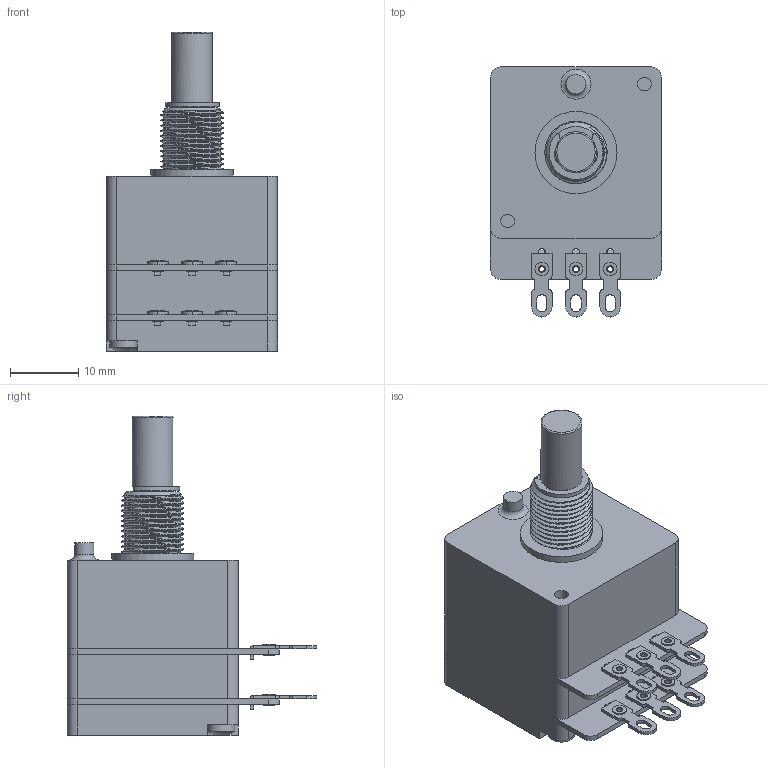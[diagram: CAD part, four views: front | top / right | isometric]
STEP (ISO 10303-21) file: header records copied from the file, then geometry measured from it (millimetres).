
FILE_DESCRIPTION(('FreeCAD Model'),'2;1');
FILE_NAME('Open CASCADE Shape Model','2023-03-22T13:42:44',(''),(''), 'Open CASCADE STEP processor 7.6','FreeCAD','Unknown');
FILE_SCHEMA(('AUTOMOTIVE_DESIGN { 1 0 10303 214 1 1 1 1 }'));
Length unit declared in the file: millimetre
Products named in the file (1): Fusion014013
Bounding box: 25 x 36.5 x 46.67 mm (x, y, z)
Volume: 17085.6 mm3; surface area: 6035.5 mm2
Topology: 1 solids, 15 shells, 508 faces, 1327 edges, 831 vertices
Faces by surface type: plane 256, cylinder 184, bspline 38, cone 18, torus 8, sphere 2, revolution 2
Full cylindrical faces by diameter (mm): 0.8 x6, 1.2 x6, 1.25 x6, 1.9 x4, 2 x10, 2.2 x14, 2.8 x1, 4.5 x2, 5.4 x1, 6 x1, 9.09 x11, 12 x1
Entity records: 42735 total; most frequent: CARTESIAN_POINT 16415, DIRECTION 4445, ORIENTED_EDGE 2648, PCURVE 2648, DEFINITIONAL_REPRESENTATION 2648, LINE 2340, VECTOR 2340, EDGE_CURVE 1324
